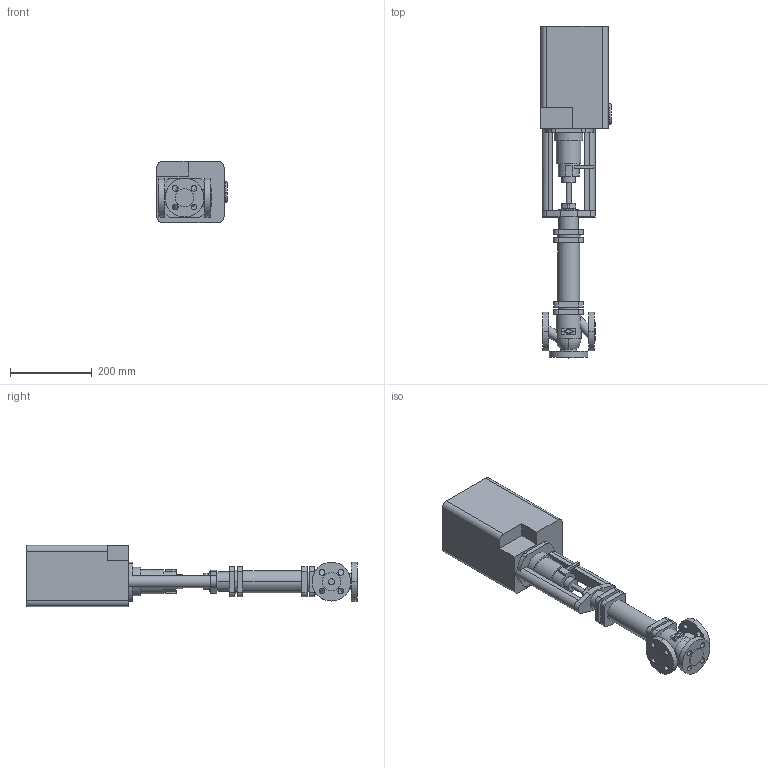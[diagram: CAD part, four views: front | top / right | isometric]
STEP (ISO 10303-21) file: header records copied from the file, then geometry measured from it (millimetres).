
FILE_DESCRIPTION(('OneSpaceDesigner STEP Export'),'2;1');
FILE_NAME('c000002432.stp','2006-09-21T11:42:13',(''),(''),'OneSpace Designer STEP processor for AP214 (Solid Model)','OneSpace Designer 13.20A 18-Aug-2005 (C) CoCreate Software GmbH','');
FILE_SCHEMA(('AUTOMOTIVE_DESIGN { 1 0 10303 214 1 1 1 1 }'));
Length unit declared in the file: millimetre
Products named in the file (2): 1; 2
Bounding box: 173 x 814 x 150 mm (x, y, z)
Volume: 8119498.1 mm3; surface area: 436790.9 mm2
Topology: 2 solids, 2 shells, 234 faces, 598 edges, 398 vertices
Faces by surface type: cylinder 119, plane 111, torus 4
Entity records: 6955 total; most frequent: CARTESIAN_POINT 1469, ORIENTED_EDGE 1196, DIRECTION 1049, EDGE_CURVE 598, VERTEX_POINT 398, AXIS2_PLACEMENT_3D 363, VECTOR 323, LINE 323
